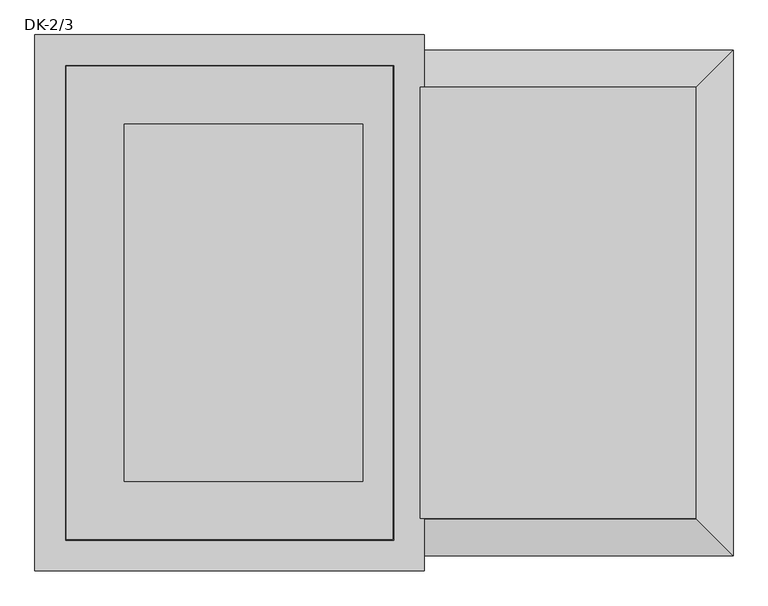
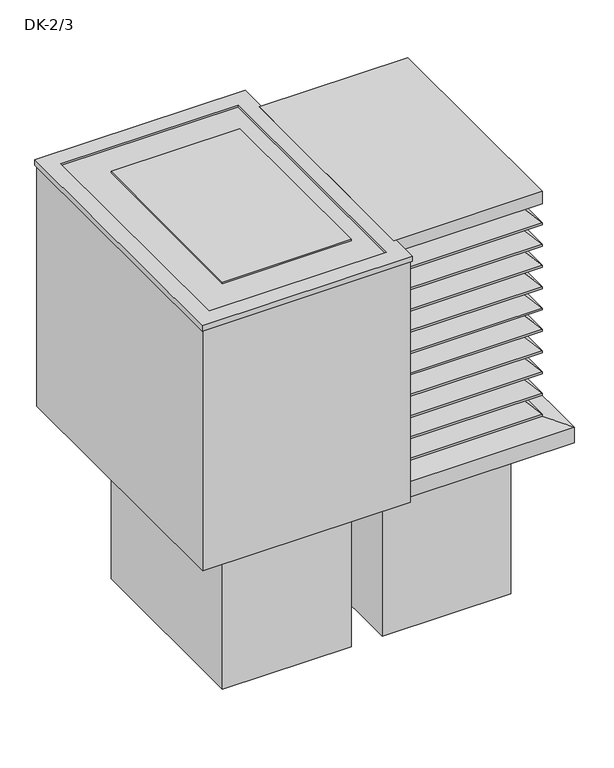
"""IFC4 building model written with IfcOpenShell, lengths in millimetres: air terminal geometry, AIR_FB_Roof cowl DK-23_SMA : DK-2/3."""

from ifc_helpers import new_model, si_unit, frame, origin, place, context, project, spatial, polyline, outline, extrude, faceted_brep, source, transform, mapped, element, save


def dk_2_3_7b97e303(model_context):
    return source(origin(), model_context, "Body", "SolidModel", [
        faceted_brep([(462.5, 362.5, 780.0), (462.5, 362.5, 786.36499), (462.5, -362.5, 786.36499), (462.5, -362.5, 780.0), (461.5, 361.5, 785.9507764), (461.5, 361.5, 780.0), (461.5, -361.5, 780.0), (461.5, -361.5, 785.9507764), (400.0, 300.0, 847.4507764), (400.0, -300.0, 847.4507764), (400.0, 300.0, 850.0), (400.0, -300.0, 850.0), (401.0, 301.0, 847.86499), (401.0, 301.0, 850.0), (401.0, -301.0, 850.0), (401.0, -301.0, 847.86499), (0.0, -362.5, 786.36499), (0.0, -362.5, 780.0), (0.0, -361.5, 780.0), (0.0, -361.5, 785.9507764), (0.0, -300.0, 847.4507764), (0.0, -300.0, 850.0), (0.0, -301.0, 850.0), (0.0, -301.0, 847.86499), (0.0, 362.5, 780.0), (0.0, 362.5, 786.36499), (0.0, 361.5, 780.0), (0.0, 361.5, 785.9507764), (0.0, 300.0, 847.4507764), (0.0, 300.0, 850.0), (0.0, 301.0, 850.0), (0.0, 301.0, 847.86499)], [[[0, 1, 2, 3]], [[4, 5, 6, 7]], [[8, 4, 7, 9]], [[10, 8, 9, 11]], [[12, 13, 14, 15]], [[1, 12, 15, 2]], [[3, 2, 16, 17]], [[7, 6, 18, 19]], [[9, 7, 19, 20]], [[11, 9, 20, 21]], [[15, 14, 22, 23]], [[2, 15, 23, 16]], [[24, 25, 1, 0]], [[26, 24, 0, 3, 17, 18, 6, 5]], [[27, 26, 5, 4]], [[28, 27, 4, 8]], [[29, 28, 8, 10]], [[30, 29, 10, 11, 21, 22, 14, 13]], [[31, 30, 13, 12]], [[25, 31, 12, 1]], [[25, 24, 26, 27, 28, 29, 30, 31]], [[16, 23, 22, 21, 20, 19, 18, 17]]]),
        faceted_brep([(462.5, 362.5, 710.0), (462.5, 362.5, 716.36499), (462.5, -362.5, 716.36499), (462.5, -362.5, 710.0), (461.5, 361.5, 715.9507764), (461.5, 361.5, 710.0), (461.5, -361.5, 710.0), (461.5, -361.5, 715.9507764), (400.0, 300.0, 777.4507764), (400.0, -300.0, 777.4507764), (400.0, 300.0, 780.0), (400.0, -300.0, 780.0), (401.0, 301.0, 777.86499), (401.0, 301.0, 780.0), (401.0, -301.0, 780.0), (401.0, -301.0, 777.86499), (0.0, -362.5, 716.36499), (0.0, -362.5, 710.0), (0.0, -361.5, 710.0), (0.0, -361.5, 715.9507764), (0.0, -300.0, 777.4507764), (0.0, -300.0, 780.0), (0.0, -301.0, 780.0), (0.0, -301.0, 777.86499), (0.0, 362.5, 710.0), (0.0, 362.5, 716.36499), (0.0, 361.5, 710.0), (0.0, 361.5, 715.9507764), (0.0, 300.0, 777.4507764), (0.0, 300.0, 780.0), (0.0, 301.0, 780.0), (0.0, 301.0, 777.86499)], [[[0, 1, 2, 3]], [[4, 5, 6, 7]], [[8, 4, 7, 9]], [[10, 8, 9, 11]], [[12, 13, 14, 15]], [[1, 12, 15, 2]], [[3, 2, 16, 17]], [[7, 6, 18, 19]], [[9, 7, 19, 20]], [[11, 9, 20, 21]], [[15, 14, 22, 23]], [[2, 15, 23, 16]], [[24, 25, 1, 0]], [[26, 24, 0, 3, 17, 18, 6, 5]], [[27, 26, 5, 4]], [[28, 27, 4, 8]], [[29, 28, 8, 10]], [[30, 29, 10, 11, 21, 22, 14, 13]], [[31, 30, 13, 12]], [[25, 31, 12, 1]], [[25, 24, 26, 27, 28, 29, 30, 31]], [[16, 23, 22, 21, 20, 19, 18, 17]]]),
        faceted_brep([(462.5, 362.5, 640.0), (462.5, 362.5, 646.36499), (462.5, -362.5, 646.36499), (462.5, -362.5, 640.0), (461.5, 361.5, 645.9507764), (461.5, 361.5, 640.0), (461.5, -361.5, 640.0), (461.5, -361.5, 645.9507764), (400.0, 300.0, 707.4507764), (400.0, -300.0, 707.4507764), (400.0, 300.0, 710.0), (400.0, -300.0, 710.0), (401.0, 301.0, 707.86499), (401.0, 301.0, 710.0), (401.0, -301.0, 710.0), (401.0, -301.0, 707.86499), (0.0, -362.5, 646.36499), (0.0, -362.5, 640.0), (0.0, -361.5, 640.0), (0.0, -361.5, 645.9507764), (0.0, -300.0, 707.4507764), (0.0, -300.0, 710.0), (0.0, -301.0, 710.0), (0.0, -301.0, 707.86499), (0.0, 362.5, 640.0), (0.0, 362.5, 646.36499), (0.0, 361.5, 640.0), (0.0, 361.5, 645.9507764), (0.0, 300.0, 707.4507764), (0.0, 300.0, 710.0), (0.0, 301.0, 710.0), (0.0, 301.0, 707.86499)], [[[0, 1, 2, 3]], [[4, 5, 6, 7]], [[8, 4, 7, 9]], [[10, 8, 9, 11]], [[12, 13, 14, 15]], [[1, 12, 15, 2]], [[3, 2, 16, 17]], [[7, 6, 18, 19]], [[9, 7, 19, 20]], [[11, 9, 20, 21]], [[15, 14, 22, 23]], [[2, 15, 23, 16]], [[24, 25, 1, 0]], [[26, 24, 0, 3, 17, 18, 6, 5]], [[27, 26, 5, 4]], [[28, 27, 4, 8]], [[29, 28, 8, 10]], [[30, 29, 10, 11, 21, 22, 14, 13]], [[31, 30, 13, 12]], [[25, 31, 12, 1]], [[25, 24, 26, 27, 28, 29, 30, 31]], [[16, 23, 22, 21, 20, 19, 18, 17]]]),
        faceted_brep([(462.5, 362.5, 570.0), (462.5, 362.5, 576.36499), (462.5, -362.5, 576.36499), (462.5, -362.5, 570.0), (461.5, 361.5, 575.9507764), (461.5, 361.5, 570.0), (461.5, -361.5, 570.0), (461.5, -361.5, 575.9507764), (400.0, 300.0, 637.4507764), (400.0, -300.0, 637.4507764), (400.0, 300.0, 640.0), (400.0, -300.0, 640.0), (401.0, 301.0, 637.86499), (401.0, 301.0, 640.0), (401.0, -301.0, 640.0), (401.0, -301.0, 637.86499), (0.0, -362.5, 576.36499), (0.0, -362.5, 570.0), (0.0, -361.5, 570.0), (0.0, -361.5, 575.9507764), (0.0, -300.0, 637.4507764), (0.0, -300.0, 640.0), (0.0, -301.0, 640.0), (0.0, -301.0, 637.86499), (0.0, 362.5, 570.0), (0.0, 362.5, 576.36499), (0.0, 361.5, 570.0), (0.0, 361.5, 575.9507764), (0.0, 300.0, 637.4507764), (0.0, 300.0, 640.0), (0.0, 301.0, 640.0), (0.0, 301.0, 637.86499)], [[[0, 1, 2, 3]], [[4, 5, 6, 7]], [[8, 4, 7, 9]], [[10, 8, 9, 11]], [[12, 13, 14, 15]], [[1, 12, 15, 2]], [[3, 2, 16, 17]], [[7, 6, 18, 19]], [[9, 7, 19, 20]], [[11, 9, 20, 21]], [[15, 14, 22, 23]], [[2, 15, 23, 16]], [[24, 25, 1, 0]], [[26, 24, 0, 3, 17, 18, 6, 5]], [[27, 26, 5, 4]], [[28, 27, 4, 8]], [[29, 28, 8, 10]], [[30, 29, 10, 11, 21, 22, 14, 13]], [[31, 30, 13, 12]], [[25, 31, 12, 1]], [[25, 24, 26, 27, 28, 29, 30, 31]], [[16, 23, 22, 21, 20, 19, 18, 17]]]),
        faceted_brep([(462.5, 362.5, 500.0), (462.5, 362.5, 506.36499), (462.5, -362.5, 506.36499), (462.5, -362.5, 500.0), (461.5, 361.5, 505.9507764), (461.5, 361.5, 500.0), (461.5, -361.5, 500.0), (461.5, -361.5, 505.9507764), (400.0, 300.0, 567.4507764), (400.0, -300.0, 567.4507764), (400.0, 300.0, 570.0), (400.0, -300.0, 570.0), (401.0, 301.0, 567.86499), (401.0, 301.0, 570.0), (401.0, -301.0, 570.0), (401.0, -301.0, 567.86499), (0.0, -362.5, 506.36499), (0.0, -362.5, 500.0), (0.0, -361.5, 500.0), (0.0, -361.5, 505.9507764), (0.0, -300.0, 567.4507764), (0.0, -300.0, 570.0), (0.0, -301.0, 570.0), (0.0, -301.0, 567.86499), (0.0, 362.5, 500.0), (0.0, 362.5, 506.36499), (0.0, 361.5, 500.0), (0.0, 361.5, 505.9507764), (0.0, 300.0, 567.4507764), (0.0, 300.0, 570.0), (0.0, 301.0, 570.0), (0.0, 301.0, 567.86499)], [[[0, 1, 2, 3]], [[4, 5, 6, 7]], [[8, 4, 7, 9]], [[10, 8, 9, 11]], [[12, 13, 14, 15]], [[1, 12, 15, 2]], [[3, 2, 16, 17]], [[7, 6, 18, 19]], [[9, 7, 19, 20]], [[11, 9, 20, 21]], [[15, 14, 22, 23]], [[2, 15, 23, 16]], [[24, 25, 1, 0]], [[26, 24, 0, 3, 17, 18, 6, 5]], [[27, 26, 5, 4]], [[28, 27, 4, 8]], [[29, 28, 8, 10]], [[30, 29, 10, 11, 21, 22, 14, 13]], [[31, 30, 13, 12]], [[25, 31, 12, 1]], [[25, 24, 26, 27, 28, 29, 30, 31]], [[16, 23, 22, 21, 20, 19, 18, 17]]]),
        faceted_brep([(462.5, 362.5, 430.0), (462.5, 362.5, 436.36499), (462.5, -362.5, 436.36499), (462.5, -362.5, 430.0), (461.5, 361.5, 435.9507764), (461.5, 361.5, 430.0), (461.5, -361.5, 430.0), (461.5, -361.5, 435.9507764), (400.0, 300.0, 497.4507764), (400.0, -300.0, 497.4507764), (400.0, 300.0, 500.0), (400.0, -300.0, 500.0), (401.0, 301.0, 497.86499), (401.0, 301.0, 500.0), (401.0, -301.0, 500.0), (401.0, -301.0, 497.86499), (0.0, -362.5, 436.36499), (0.0, -362.5, 430.0), (0.0, -361.5, 430.0), (0.0, -361.5, 435.9507764), (0.0, -300.0, 497.4507764), (0.0, -300.0, 500.0), (0.0, -301.0, 500.0), (0.0, -301.0, 497.86499), (0.0, 362.5, 430.0), (0.0, 362.5, 436.36499), (0.0, 361.5, 430.0), (0.0, 361.5, 435.9507764), (0.0, 300.0, 497.4507764), (0.0, 300.0, 500.0), (0.0, 301.0, 500.0), (0.0, 301.0, 497.86499)], [[[0, 1, 2, 3]], [[4, 5, 6, 7]], [[8, 4, 7, 9]], [[10, 8, 9, 11]], [[12, 13, 14, 15]], [[1, 12, 15, 2]], [[3, 2, 16, 17]], [[7, 6, 18, 19]], [[9, 7, 19, 20]], [[11, 9, 20, 21]], [[15, 14, 22, 23]], [[2, 15, 23, 16]], [[24, 25, 1, 0]], [[26, 24, 0, 3, 17, 18, 6, 5]], [[27, 26, 5, 4]], [[28, 27, 4, 8]], [[29, 28, 8, 10]], [[30, 29, 10, 11, 21, 22, 14, 13]], [[31, 30, 13, 12]], [[25, 31, 12, 1]], [[25, 24, 26, 27, 28, 29, 30, 31]], [[16, 23, 22, 21, 20, 19, 18, 17]]]),
        faceted_brep([(462.5, 362.5, 360.0), (462.5, 362.5, 366.36499), (462.5, -362.5, 366.36499), (462.5, -362.5, 360.0), (461.5, 361.5, 365.9507764), (461.5, 361.5, 360.0), (461.5, -361.5, 360.0), (461.5, -361.5, 365.9507764), (400.0, 300.0, 427.4507764), (400.0, -300.0, 427.4507764), (400.0, 300.0, 430.0), (400.0, -300.0, 430.0), (401.0, 301.0, 427.86499), (401.0, 301.0, 430.0), (401.0, -301.0, 430.0), (401.0, -301.0, 427.86499), (0.0, -362.5, 366.36499), (0.0, -362.5, 360.0), (0.0, -361.5, 360.0), (0.0, -361.5, 365.9507764), (0.0, -300.0, 427.4507764), (0.0, -300.0, 430.0), (0.0, -301.0, 430.0), (0.0, -301.0, 427.86499), (0.0, 362.5, 360.0), (0.0, 362.5, 366.36499), (0.0, 361.5, 360.0), (0.0, 361.5, 365.9507764), (0.0, 300.0, 427.4507764), (0.0, 300.0, 430.0), (0.0, 301.0, 430.0), (0.0, 301.0, 427.86499)], [[[0, 1, 2, 3]], [[4, 5, 6, 7]], [[8, 4, 7, 9]], [[10, 8, 9, 11]], [[12, 13, 14, 15]], [[1, 12, 15, 2]], [[3, 2, 16, 17]], [[7, 6, 18, 19]], [[9, 7, 19, 20]], [[11, 9, 20, 21]], [[15, 14, 22, 23]], [[2, 15, 23, 16]], [[24, 25, 1, 0]], [[26, 24, 0, 3, 17, 18, 6, 5]], [[27, 26, 5, 4]], [[28, 27, 4, 8]], [[29, 28, 8, 10]], [[30, 29, 10, 11, 21, 22, 14, 13]], [[31, 30, 13, 12]], [[25, 31, 12, 1]], [[25, 24, 26, 27, 28, 29, 30, 31]], [[16, 23, 22, 21, 20, 19, 18, 17]]]),
        faceted_brep([(462.5, 362.5, 290.0), (462.5, 362.5, 296.36499), (462.5, -362.5, 296.36499), (462.5, -362.5, 290.0), (461.5, 361.5, 295.9507764), (461.5, 361.5, 290.0), (461.5, -361.5, 290.0), (461.5, -361.5, 295.9507764), (400.0, 300.0, 357.4507764), (400.0, -300.0, 357.4507764), (400.0, 300.0, 360.0), (400.0, -300.0, 360.0), (401.0, 301.0, 357.86499), (401.0, 301.0, 360.0), (401.0, -301.0, 360.0), (401.0, -301.0, 357.86499), (0.0, -362.5, 296.36499), (0.0, -362.5, 290.0), (0.0, -361.5, 290.0), (0.0, -361.5, 295.9507764), (0.0, -300.0, 357.4507764), (0.0, -300.0, 360.0), (0.0, -301.0, 360.0), (0.0, -301.0, 357.86499), (0.0, 362.5, 290.0), (0.0, 362.5, 296.36499), (0.0, 361.5, 290.0), (0.0, 361.5, 295.9507764), (0.0, 300.0, 357.4507764), (0.0, 300.0, 360.0), (0.0, 301.0, 360.0), (0.0, 301.0, 357.86499)], [[[0, 1, 2, 3]], [[4, 5, 6, 7]], [[8, 4, 7, 9]], [[10, 8, 9, 11]], [[12, 13, 14, 15]], [[1, 12, 15, 2]], [[3, 2, 16, 17]], [[7, 6, 18, 19]], [[9, 7, 19, 20]], [[11, 9, 20, 21]], [[15, 14, 22, 23]], [[2, 15, 23, 16]], [[24, 25, 1, 0]], [[26, 24, 0, 3, 17, 18, 6, 5]], [[27, 26, 5, 4]], [[28, 27, 4, 8]], [[29, 28, 8, 10]], [[30, 29, 10, 11, 21, 22, 14, 13]], [[31, 30, 13, 12]], [[25, 31, 12, 1]], [[25, 24, 26, 27, 28, 29, 30, 31]], [[16, 23, 22, 21, 20, 19, 18, 17]]]),
        faceted_brep([(462.5, 362.5, 850.0), (462.5, 362.5, 856.36499), (462.5, -362.5, 856.36499), (462.5, -362.5, 850.0), (461.5, 361.5, 855.9507764), (461.5, 361.5, 850.0), (461.5, -361.5, 850.0), (461.5, -361.5, 855.9507764), (400.0, 300.0, 917.4507764), (400.0, -300.0, 917.4507764), (400.0, 300.0, 920.0), (400.0, -300.0, 920.0), (401.0, 301.0, 917.86499), (401.0, 301.0, 920.0), (401.0, -301.0, 920.0), (401.0, -301.0, 917.86499), (0.0, -362.5, 856.36499), (0.0, -362.5, 850.0), (0.0, -361.5, 850.0), (0.0, -361.5, 855.9507764), (0.0, -300.0, 917.4507764), (0.0, -300.0, 920.0), (0.0, -301.0, 920.0), (0.0, -301.0, 917.86499), (0.0, 362.5, 850.0), (0.0, 362.5, 856.36499), (0.0, 361.5, 850.0), (0.0, 361.5, 855.9507764), (0.0, 300.0, 917.4507764), (0.0, 300.0, 920.0), (0.0, 301.0, 920.0), (0.0, 301.0, 917.86499)], [[[0, 1, 2, 3]], [[4, 5, 6, 7]], [[8, 4, 7, 9]], [[10, 8, 9, 11]], [[12, 13, 14, 15]], [[1, 12, 15, 2]], [[3, 2, 16, 17]], [[7, 6, 18, 19]], [[9, 7, 19, 20]], [[11, 9, 20, 21]], [[15, 14, 22, 23]], [[2, 15, 23, 16]], [[24, 25, 1, 0]], [[26, 24, 0, 3, 17, 18, 6, 5]], [[27, 26, 5, 4]], [[28, 27, 4, 8]], [[29, 28, 8, 10]], [[30, 29, 10, 11, 21, 22, 14, 13]], [[31, 30, 13, 12]], [[25, 31, 12, 1]], [[25, 24, 26, 27, 28, 29, 30, 31]], [[16, 23, 22, 21, 20, 19, 18, 17]]]),
        faceted_brep([(462.5, 362.5, 220.0), (462.5, 362.5, 226.36499), (462.5, -362.5, 226.36499), (462.5, -362.5, 220.0), (461.5, 361.5, 225.9507764), (461.5, 361.5, 220.0), (461.5, -361.5, 220.0), (461.5, -361.5, 225.9507764), (400.0, 300.0, 287.4507764), (400.0, -300.0, 287.4507764), (400.0, 300.0, 290.0), (400.0, -300.0, 290.0), (401.0, 301.0, 287.86499), (401.0, 301.0, 290.0), (401.0, -301.0, 290.0), (401.0, -301.0, 287.86499), (0.0, -362.5, 226.36499), (0.0, -362.5, 220.0), (0.0, -361.5, 220.0), (0.0, -361.5, 225.9507764), (0.0, -300.0, 287.4507764), (0.0, -300.0, 290.0), (0.0, -301.0, 290.0), (0.0, -301.0, 287.86499), (0.0, 362.5, 220.0), (0.0, 362.5, 226.36499), (0.0, 361.5, 220.0), (0.0, 361.5, 225.9507764), (0.0, 300.0, 287.4507764), (0.0, 300.0, 290.0), (0.0, 301.0, 290.0), (0.0, 301.0, 287.86499)], [[[0, 1, 2, 3]], [[4, 5, 6, 7]], [[8, 4, 7, 9]], [[10, 8, 9, 11]], [[12, 13, 14, 15]], [[1, 12, 15, 2]], [[3, 2, 16, 17]], [[7, 6, 18, 19]], [[9, 7, 19, 20]], [[11, 9, 20, 21]], [[15, 14, 22, 23]], [[2, 15, 23, 16]], [[24, 25, 1, 0]], [[26, 24, 0, 3, 17, 18, 6, 5]], [[27, 26, 5, 4]], [[28, 27, 4, 8]], [[29, 28, 8, 10]], [[30, 29, 10, 11, 21, 22, 14, 13]], [[31, 30, 13, 12]], [[25, 31, 12, 1]], [[25, 24, 26, 27, 28, 29, 30, 31]], [[16, 23, 22, 21, 20, 19, 18, 17]]]),
        extrude(outline(polyline([(462.5, 362.5), (462.5, -362.5), (0.0, -362.5), (0.0, 362.5), (462.5, 362.5)])), frame((0.0, 0.0, 920.0), z_axis=(0.0, 0.0, 1.0), x_axis=(1.0, 0.0, 0.0)), (0.0, 0.0, 1.0), 40.0),
        extrude(outline(polyline([(400.0, 300.0), (400.0, -300.0), (0.0, -300.0), (0.0, 300.0), (400.0, 300.0)]), holes=[polyline([(390.0, 290.0), (10.0, 290.0), (10.0, -290.0), (390.0, -290.0), (390.0, 290.0)])]), frame((0.0, 0.0, -380.0), z_axis=(0.0, 0.0, 1.0), x_axis=(1.0, 0.0, 0.0)), (0.0, 0.0, 1.0), 580.0),
        faceted_brep([(-89.0, 355.0, 152.2), (-89.0, 355.0, 150.0), (-89.0, -355.0, 150.0), (-89.0, -355.0, 152.2), (0.0, 444.0, 958.0), (0.0, 444.0, 152.2), (0.0, -444.0, 152.2), (0.0, -444.0, 958.0), (-43.0, 401.0, 947.5), (-43.0, 401.0, 958.0), (-43.0, -401.0, 958.0), (-43.0, -401.0, 947.5), (-57.5, 386.5, 948.7687085), (-57.5, 386.5, 947.5), (-57.5, -386.5, 947.5), (-57.5, -386.5, 948.7687085), (-47.5, 396.5, 953.9627225), (-47.5, 396.5, 948.7687085), (-47.5, -396.5, 948.7687085), (-47.5, -396.5, 953.9627225), (-46.5, 397.5, 948.7687085), (-46.5, 397.5, 955.0), (-46.5, -397.5, 955.0), (-46.5, -397.5, 948.7687085), (-45.0, 399.0, 960.0), (-45.0, 399.0, 948.7687085), (-45.0, -399.0, 948.7687085), (-45.0, -399.0, 960.0), (6.4142136, 450.4142136, 942.5), (6.4142136, 450.4142136, 960.0), (6.4142136, -450.4142136, 960.0), (6.4142136, -450.4142136, 942.5), (5.0, 449.0, 958.0), (5.0, 449.0, 942.5), (5.0, -449.0, 942.5), (5.0, -449.0, 958.0), (3.0, 447.0, 150.0), (3.0, 447.0, 958.0), (3.0, -447.0, 958.0), (3.0, -447.0, 150.0), (-552.05, -355.0, 150.0), (-552.05, -355.0, 152.2), (-641.05, -444.0, 152.2), (-641.05, -444.0, 958.0), (-598.05, -401.0, 958.0), (-598.05, -401.0, 947.5), (-583.55, -386.5, 947.5), (-583.55, -386.5, 948.7687085), (-593.55, -396.5, 948.7687085), (-593.55, -396.5, 953.9627225), (-594.55, -397.5, 955.0), (-594.55, -397.5, 948.7687085), (-596.05, -399.0, 948.7687085), (-596.05, -399.0, 960.0), (-647.4642136, -450.4142136, 960.0), (-647.4642136, -450.4142136, 942.5), (-646.05, -449.0, 942.5), (-646.05, -449.0, 958.0), (-644.05, -447.0, 958.0), (-644.05, -447.0, 150.0), (-552.05, 355.0, 150.0), (-552.05, 355.0, 152.2), (-641.05, 444.0, 152.2), (-641.05, 444.0, 958.0), (-598.05, 401.0, 958.0), (-598.05, 401.0, 947.5), (-583.55, 386.5, 947.5), (-583.55, 386.5, 948.7687085), (-593.55, 396.5, 948.7687085), (-593.55, 396.5, 953.9627225), (-594.55, 397.5, 955.0), (-594.55, 397.5, 948.7687085), (-596.05, 399.0, 948.7687085), (-596.05, 399.0, 960.0), (-647.4642136, 450.4142136, 960.0), (-647.4642136, 450.4142136, 942.5), (-646.05, 449.0, 942.5), (-646.05, 449.0, 958.0), (-644.05, 447.0, 958.0), (-644.05, 447.0, 150.0), (-97.05, 300.0, 953.9627225), (-144.0, 300.0, 953.9627225), (-497.05, 300.0, 953.9627225), (-497.05, -300.0, 953.9627225), (-144.0, -300.0, 953.9627225), (-97.05, -300.0, 953.9627225), (-497.05, 300.0, 955.0), (-144.0, 300.0, 955.0), (-97.05, 300.0, 955.0), (-97.05, -300.0, 955.0), (-144.0, -300.0, 955.0), (-497.05, -300.0, 955.0), (-97.05, 300.0, 960.0), (-497.05, 300.0, 960.0), (-497.05, -300.0, 960.0), (-97.05, -300.0, 960.0), (-97.05, 300.0, 953.2029442), (-97.05, -300.0, 953.2029442), (-497.05, -300.0, 953.2029442), (-497.05, 300.0, 953.2029442)], [[[0, 1, 2, 3]], [[4, 5, 6, 7]], [[8, 9, 10, 11]], [[12, 13, 14, 15]], [[16, 17, 18, 19]], [[20, 21, 22, 23]], [[24, 25, 26, 27]], [[28, 29, 30, 31]], [[32, 33, 34, 35]], [[36, 37, 38, 39]], [[3, 2, 40, 41]], [[7, 6, 42, 43]], [[11, 10, 44, 45]], [[15, 14, 46, 47]], [[19, 18, 48, 49]], [[23, 22, 50, 51]], [[27, 26, 52, 53]], [[31, 30, 54, 55]], [[35, 34, 56, 57]], [[39, 38, 58, 59]], [[41, 40, 60, 61]], [[43, 42, 62, 63]], [[45, 44, 64, 65]], [[47, 46, 66, 67]], [[49, 48, 68, 69]], [[51, 50, 70, 71]], [[53, 52, 72, 73]], [[55, 54, 74, 75]], [[57, 56, 76, 77]], [[59, 58, 78, 79]], [[36, 39, 59, 79], [2, 1, 60, 40]], [[1, 0, 61, 60]], [[6, 5, 62, 42], [0, 3, 41, 61]], [[5, 4, 63, 62]], [[4, 7, 43, 63], [10, 9, 64, 44]], [[9, 8, 65, 64]], [[8, 11, 45, 65], [14, 13, 66, 46]], [[13, 12, 67, 66]], [[18, 17, 68, 48], [12, 15, 47, 67]], [[17, 16, 69, 68]], [[16, 19, 49, 69], [80, 81, 82, 83, 84, 85]], [[22, 21, 70, 50], [86, 87, 88, 89, 90, 91]], [[21, 20, 71, 70]], [[26, 25, 72, 52], [20, 23, 51, 71]], [[25, 24, 73, 72]], [[30, 29, 74, 54], [24, 27, 53, 73]], [[29, 28, 75, 74]], [[28, 31, 55, 75], [34, 33, 76, 56]], [[33, 32, 77, 76]], [[32, 35, 57, 77], [38, 37, 78, 58]], [[37, 36, 79, 78]], [[92, 93, 94, 95]], [[96, 97, 98, 99]], [[93, 92, 88, 87, 86]], [[96, 99, 82, 81, 80]], [[94, 93, 86, 91]], [[99, 98, 83, 82]], [[95, 94, 91, 90, 89]], [[98, 97, 85, 84, 83]], [[92, 95, 89, 88]], [[97, 96, 80, 85]]]),
        faceted_brep([(-97.05, 300.0, 200.0), (-497.05, 300.0, 200.0), (-497.05, -300.0, 200.0), (-97.05, -300.0, 200.0), (-107.05, 290.0, 200.0), (-107.05, -290.0, 200.0), (-487.05, -290.0, 200.0), (-487.05, 290.0, 200.0), (-97.05, 300.0, -380.0), (-97.05, -300.0, -380.0), (-497.05, -300.0, -380.0), (-497.05, 300.0, -380.0), (-107.05, 290.0, -380.0), (-487.05, 290.0, -380.0), (-487.05, -290.0, -380.0), (-107.05, -290.0, -380.0)], [[[0, 1, 2, 3], [4, 5, 6, 7]], [[8, 9, 10, 11], [12, 13, 14, 15]], [[1, 0, 8, 11]], [[2, 1, 11, 10]], [[3, 2, 10, 9]], [[0, 3, 9, 8]], [[5, 4, 12, 15]], [[6, 5, 15, 14]], [[7, 6, 14, 13]], [[4, 7, 13, 12]]]),
        faceted_brep([(400.0, 300.0, 240.0), (400.0, 300.0, 150.0), (400.0, -300.0, 150.0), (400.0, -300.0, 240.0), (525.0, 425.0, 150.0), (525.0, 425.0, 200.0), (525.0, -425.0, 200.0), (525.0, -425.0, 150.0), (-500.0, -300.0, 150.0), (-500.0, -300.0, 240.0), (-625.0, -425.0, 200.0), (-625.0, -425.0, 150.0), (-500.0, 300.0, 150.0), (-500.0, 300.0, 240.0), (-625.0, 425.0, 200.0), (-625.0, 425.0, 150.0)], [[[0, 1, 2, 3]], [[4, 5, 6, 7]], [[3, 2, 8, 9]], [[7, 6, 10, 11]], [[9, 8, 12, 13]], [[11, 10, 14, 15]], [[7, 11, 15, 4], [1, 12, 8, 2]], [[13, 12, 1, 0]], [[15, 14, 5, 4]], [[0, 3, 6, 5]], [[6, 3, 9, 10]], [[10, 9, 13, 14]], [[14, 13, 0, 5]]]),
    ])


if __name__ == "__main__":
    model = new_model("IFC4")
    model_context = context("Model", 3, world=origin())
    ifc_project = project(units=[si_unit("LENGTHUNIT", "METRE", prefix="MILLI")], contexts=[model_context])
    site = spatial("IfcSite", under=ifc_project)
    building = spatial("IfcBuilding", under=site)
    placement = place(None, origin())
    dk_2_3_shape = dk_2_3_7b97e303(model_context)
    element("IfcAirTerminal", 1, ObjectType="AIR_FB_Roof cowl DK-23_SMA : DK-2/3", at=placement, inside=building, context=model_context, shape_type="MappedRepresentation", body=[
        mapped(dk_2_3_shape, transform((0.0, 0.0, 0.0), x_axis=(1.0, 0.0, 0.0), y_axis=(0.0, 1.0, 0.0), z_axis=(0.0, 0.0, 1.0))),
    ])
    save(model, "model.ifc")
